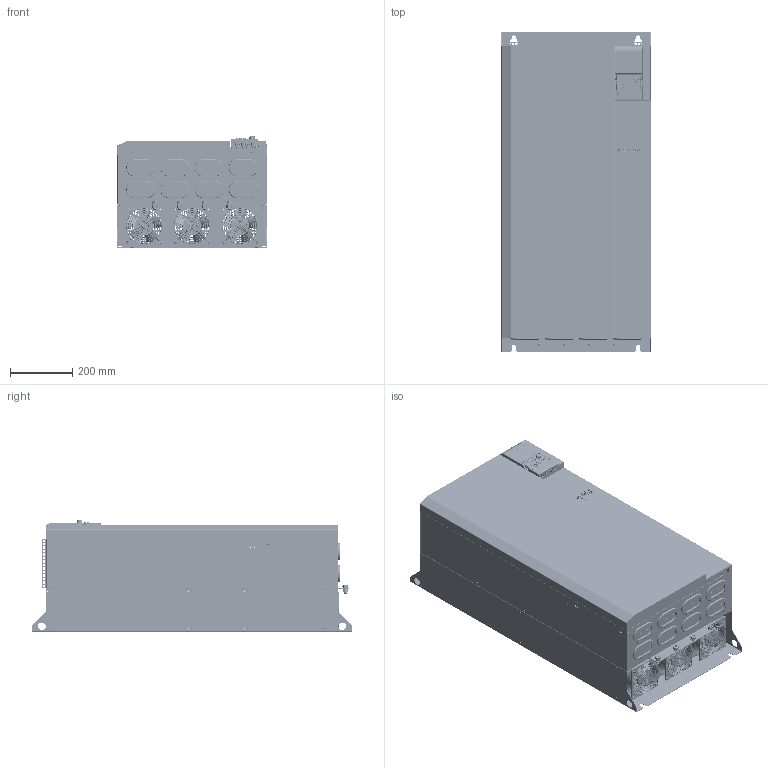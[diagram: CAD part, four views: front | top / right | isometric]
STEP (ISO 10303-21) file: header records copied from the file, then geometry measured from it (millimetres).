
FILE_DESCRIPTION((''),'2;1');
FILE_NAME('VFC5610-185K-3P4-MNA-XX-NNNNN-N','2023-03-27T14:07:14',('ZUX1XI'),(''),'CREO PARAMETRIC BY PTC INC, 2021072','CREO PARAMETRIC BY PTC INC, 2021072','');
FILE_SCHEMA(('AUTOMOTIVE_DESIGN { 1 0 10303 214 1 1 1 1 }'));
Products named in the file (151): MANIFOLD_SOLID_BREP_14969_1_1; MANIFOLD_SOLID_BREP_15174_1_1; MANIFOLD_SOLID_BREP_15379_1_1; MANIFOLD_SOLID_BREP_15584_1_1; MANIFOLD_SOLID_BREP_15789_1_1; MANIFOLD_SOLID_BREP_15994_1_1; MANIFOLD_SOLID_BREP_16199_1_1; MANIFOLD_SOLID_BREP_16456_1_1; MANIFOLD_SOLID_BREP_16713_1_1; MANIFOLD_SOLID_BREP_16970_1_1; MANIFOLD_SOLID_BREP_17227_1_1; MANIFOLD_SOLID_BREP_18252_1_1; MANIFOLD_SOLID_BREP_18457_1_1; MANIFOLD_SOLID_BREP_18662_1_1; MANIFOLD_SOLID_BREP_18867_1_1; MANIFOLD_SOLID_BREP_19072_1_1; HOLDER_SE5L_HEATSINK_A_1_ASM_1_; MANIFOLD_SOLID_BREP_40031_1_1; MANIFOLD_SOLID_BREP_41056_1_1; MANIFOLD_SOLID_BREP_41261_1_1; MANIFOLD_SOLID_BREP_41466_1_1; MANIFOLD_SOLID_BREP_41671_1_1; SE5L_BASE_P1_A_1_ASM_1_1; MANIFOLD_SOLID_BREP_48121_1_1; MANIFOLD_SOLID_BREP_48323_1_1; MANIFOLD_SOLID_BREP_48525_1_1; MANIFOLD_SOLID_BREP_48727_1_1; MANIFOLD_SOLID_BREP_48929_1_1; MANIFOLD_SOLID_BREP_49131_1_1; MANIFOLD_SOLID_BREP_49333_1_1; MANIFOLD_SOLID_BREP_49535_1_1; MANIFOLD_SOLID_BREP_49737_1_1; MANIFOLD_SOLID_BREP_49939_1_1; MANIFOLD_SOLID_BREP_50141_1_1; MANIFOLD_SOLID_BREP_50343_1_1; MANIFOLD_SOLID_BREP_50545_1_1; MANIFOLD_SOLID_BREP_50747_1_1; MANIFOLD_SOLID_BREP_50949_1_1; MANIFOLD_SOLID_BREP_51151_1_1; MANIFOLD_SOLID_BREP_51353_1_1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
Assembly tree (196 placements, depth 9):
  VFC5610-185K-3P4-MNA-XX-NNNNN-N
    VFC5610-185K-3P4-MNA-XX-NNNNN_2
      VFC5610-185K-3P4-MNA-XX-NNNNN_1
        L_ASM_1_1
          00_EFC5610_160KW_1_ASM_1_1
            HOLDER_SE5L_HEATSINK_A_1_ASM_1_
              MANIFOLD_SOLID_BREP_14969_1_1
              MANIFOLD_SOLID_BREP_15174_1_1
              MANIFOLD_SOLID_BREP_15379_1_1
              MANIFOLD_SOLID_BREP_15584_1_1
              MANIFOLD_SOLID_BREP_15789_1_1
              MANIFOLD_SOLID_BREP_15994_1_1
              MANIFOLD_SOLID_BREP_16199_1_1
              MANIFOLD_SOLID_BREP_16456_1_1
              MANIFOLD_SOLID_BREP_16713_1_1
              MANIFOLD_SOLID_BREP_16970_1_1
              MANIFOLD_SOLID_BREP_17227_1_1
              MANIFOLD_SOLID_BREP_18252_1_1
              MANIFOLD_SOLID_BREP_18457_1_1
              MANIFOLD_SOLID_BREP_18662_1_1
              MANIFOLD_SOLID_BREP_18867_1_1
              MANIFOLD_SOLID_BREP_19072_1_1
            SE5L_BASE_A_1_ASM_1_1
              SE5L_BASE_P1_A_1_ASM_1_1
                MANIFOLD_SOLID_BREP_40031_1_1
                MANIFOLD_SOLID_BREP_41056_1_1
                MANIFOLD_SOLID_BREP_41261_1_1
                MANIFOLD_SOLID_BREP_41466_1_1
                MANIFOLD_SOLID_BREP_41671_1_1
              SE5L_BASE_P2_A_1_ASM_1_1
                MANIFOLD_SOLID_BREP_48121_1_1
                MANIFOLD_SOLID_BREP_48323_1_1
                MANIFOLD_SOLID_BREP_48525_1_1
                MANIFOLD_SOLID_BREP_48727_1_1
                MANIFOLD_SOLID_BREP_48929_1_1
                MANIFOLD_SOLID_BREP_49131_1_1
                MANIFOLD_SOLID_BREP_49333_1_1
                MANIFOLD_SOLID_BREP_49535_1_1
                MANIFOLD_SOLID_BREP_49737_1_1
                MANIFOLD_SOLID_BREP_49939_1_1
                MANIFOLD_SOLID_BREP_50141_1_1
                MANIFOLD_SOLID_BREP_50343_1_1
                MANIFOLD_SOLID_BREP_50545_1_1
                MANIFOLD_SOLID_BREP_50747_1_1
                MANIFOLD_SOLID_BREP_50949_1_1
                MANIFOLD_SOLID_BREP_51151_1_1
                MANIFOLD_SOLID_BREP_51353_1_1
                MANIFOLD_SOLID_BREP_51555_1_1
                MANIFOLD_SOLID_BREP_51757_1_1
                MANIFOLD_SOLID_BREP_51959_1_1
                MANIFOLD_SOLID_BREP_52161_1_1
                MANIFOLD_SOLID_BREP_52363_1_1
                MANIFOLD_SOLID_BREP_52565_1_1
                MANIFOLD_SOLID_BREP_52767_1_1
                MANIFOLD_SOLID_BREP_52969_1_1
              SE5L_BASE_P3_A_1_1_1
              P_MAODING_D3_1_1_1  x8
            FAN_ADDA_AD1224UB-F51_1_1_1  x3
            E_FENGSHANZHAO_D120_1_ASM_1_1  x3
              MANIFOLD_SOLID_BREP_110545_1_1
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Bounding box: 482.2 x 1030 x 360.05 mm (x, y, z)
Volume: 4369292.4 mm3; surface area: 5263125 mm2
Topology: 180 solids, 189 shells, 13440 faces, 36276 edges, 23313 vertices
Faces by surface type: plane 6788, cylinder 4434, bspline 903, torus 652, cone 386, sphere 157, extrusion 120
Entity records: 433239 total; most frequent: CARTESIAN_POINT 90985, ORIENTED_EDGE 51740, DIRECTION 50762, PRESENTATION_STYLE_ASSIGNMENT 27094, STYLED_ITEM 26003, CURVE_STYLE 25883, EDGE_CURVE 25883, AXIS2_PLACEMENT_3D 17102
